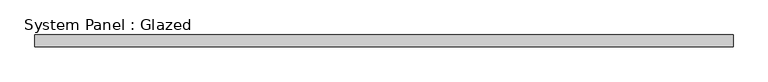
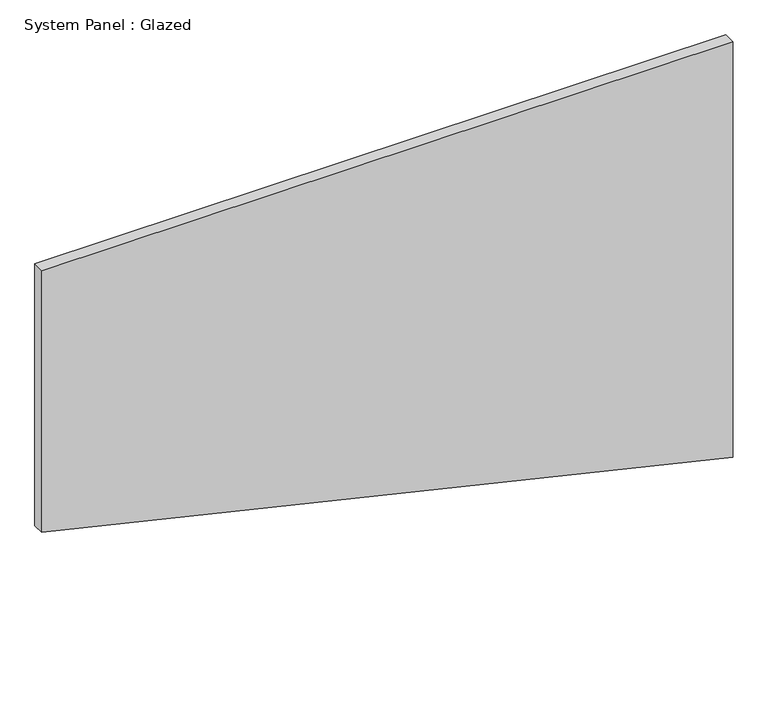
"""IFC4 building model written with IfcOpenShell, lengths in millimetres: plate geometry, System Panel : Glazed."""

from ifc_helpers import new_model, si_unit, frame, origin, place, context, project, spatial, polyline, outline, extrude, source, transform, mapped, element, save


def system_panel_glazed_71f39104(model_context):
    return source(origin(), model_context, "Body", "SweptSolid", [
        extrude(outline(polyline([(345.7559661, -735.8695652), (0.0, 735.8695652), (934.7934723, 735.8695652), (934.7934723, -735.8695652), (345.7559661, -735.8695652)])), frame((0.0, 24.5, 0.0), z_axis=(0.0, 1.0, 0.0), x_axis=(0.0, 0.0, 1.0)), (0.0, 0.0, 1.0), 25.0),
    ])


if __name__ == "__main__":
    model = new_model("IFC4")
    model_context = context("Model", 3, world=origin())
    ifc_project = project(units=[si_unit("LENGTHUNIT", "METRE", prefix="MILLI")], contexts=[model_context])
    site = spatial("IfcSite", under=ifc_project)
    building = spatial("IfcBuilding", under=site)
    placement = place(None, origin())
    system_panel_glazed_shape = system_panel_glazed_71f39104(model_context)
    element("IfcPlate", 1, ObjectType="System Panel : Glazed", at=placement, inside=building, context=model_context, shape_type="MappedRepresentation", body=[
        mapped(system_panel_glazed_shape, transform((0.0, 0.0, 0.0), x_axis=(1.0, 0.0, 0.0), y_axis=(0.0, 1.0, 0.0), z_axis=(0.0, 0.0, 1.0))),
    ])
    save(model, "model.ifc")
